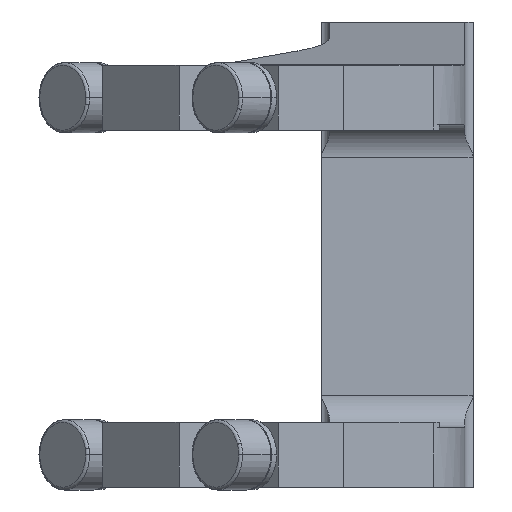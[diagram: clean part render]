
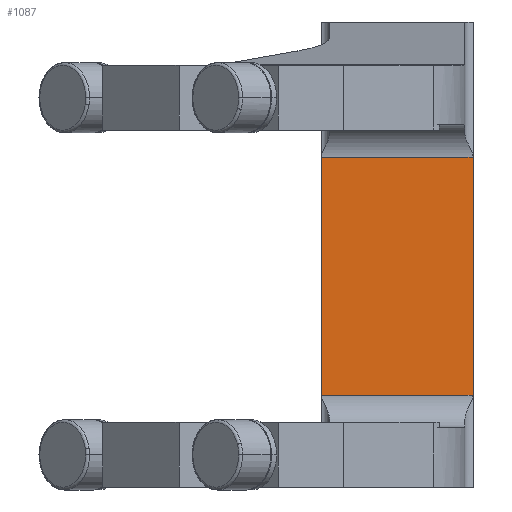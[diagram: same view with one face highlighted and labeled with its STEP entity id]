
A CAD part, front view. The second image highlights one B-rep face of the part: STEP entity #1087.
In plain terms, the highlighted planar face has unit normal (0, -1, 0).
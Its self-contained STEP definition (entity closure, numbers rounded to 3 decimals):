
#609=CARTESIAN_POINT('Line Origine',(-4.5,80.,-22.)) ;
#613=CARTESIAN_POINT('Vertex',(43.,80.,-22.)) ;
#615=CARTESIAN_POINT('Vertex',(15.,80.,-22.)) ;
#783=CARTESIAN_POINT('Vertex',(43.,80.,22.)) ;
#786=CARTESIAN_POINT('Line Origine',(43.,80.,0.)) ;
#936=CARTESIAN_POINT('Line Origine',(15.,80.,0.)) ;
#940=CARTESIAN_POINT('Vertex',(15.,80.,22.)) ;
#1071=CARTESIAN_POINT('Axis2P3D Location',(43.,80.,22.)) ;
#1076=CARTESIAN_POINT('Line Origine',(29.,80.,22.)) ;
#610=DIRECTION('Vector Direction',(1.,0.,0.)) ;
#787=DIRECTION('Vector Direction',(0.,0.,1.)) ;
#937=DIRECTION('Vector Direction',(0.,0.,-1.)) ;
#1072=DIRECTION('Axis2P3D Direction',(0.,1.,0.)) ;
#1073=DIRECTION('Axis2P3D XDirection',(-0.,0.,-1.)) ;
#1077=DIRECTION('Vector Direction',(-1.,0.,0.)) ;
#1074=AXIS2_PLACEMENT_3D('Plane Axis2P3D',#1071,#1072,#1073) ;
#1082=ORIENTED_EDGE('',*,*,#942,.F.) ;
#1083=ORIENTED_EDGE('',*,*,#617,.F.) ;
#1084=ORIENTED_EDGE('',*,*,#790,.T.) ;
#1085=ORIENTED_EDGE('',*,*,#1080,.T.) ;
#611=VECTOR('Line Direction',#610,1.) ;
#788=VECTOR('Line Direction',#787,1.) ;
#938=VECTOR('Line Direction',#937,1.) ;
#1078=VECTOR('Line Direction',#1077,1.) ;
#1087=ADVANCED_FACE('Brep With Voids',(#1086),#1075,.F.) ;
#617=EDGE_CURVE('',#614,#616,#612,.F.) ;
#790=EDGE_CURVE('',#614,#784,#789,.T.) ;
#942=EDGE_CURVE('',#616,#941,#939,.F.) ;
#1080=EDGE_CURVE('',#784,#941,#1079,.T.) ;
#1081=EDGE_LOOP('',(#1082,#1083,#1084,#1085)) ;
#1086=FACE_OUTER_BOUND('',#1081,.T.) ;
#612=LINE('Line',#609,#611) ;
#789=LINE('Line',#786,#788) ;
#939=LINE('Line',#936,#938) ;
#1079=LINE('Line',#1076,#1078) ;
#1075=PLANE('Plane',#1074) ;
#614=VERTEX_POINT('',#613) ;
#616=VERTEX_POINT('',#615) ;
#784=VERTEX_POINT('',#783) ;
#941=VERTEX_POINT('',#940) ;
